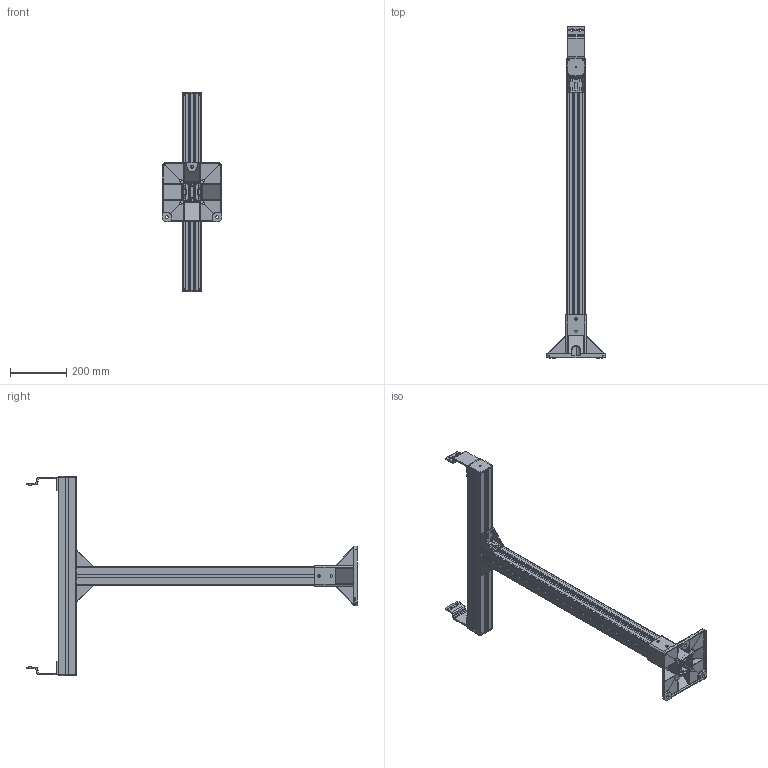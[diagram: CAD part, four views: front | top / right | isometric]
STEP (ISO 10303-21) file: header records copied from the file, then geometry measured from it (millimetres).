
FILE_DESCRIPTION (( 'STEP AP214' ), '1' );
FILE_NAME ('F2-2400-PC64.STEP', '2011-04-13T11:29:45', ( '.' ), ( '' ), 'SwSTEP 2.0', 'SolidWorks 2010', '' );
FILE_SCHEMA (( 'AUTOMOTIVE_DESIGN' ));
Length unit declared in the file: millimetre
Products named in the file (7): FBEC-64-PC64_Default; TC64-PC64_F2-2400-PC64; F2-2400-PC64; FBFA 58B-PC64; EC210-64-PC64; TC64-PC64_Tube vertical; FAHBS-60-PC64_Default
Assembly tree (9 placements, depth 2):
  F2-2400-PC64
    TC64-PC64_F2-2400-PC64
    FBFA 58B-PC64  x2
    FAHBS-60-PC64_Default  x2
    EC210-64-PC64
    FBEC-64-PC64_Default  x2
    TC64-PC64_Tube vertical
Bounding box: 210 x 1178 x 709 mm (x, y, z)
Volume: 1941507.3 mm3; surface area: 1608931.4 mm2
Topology: 9 solids, 9 shells, 1659 faces, 4644 edges, 3050 vertices
Faces by surface type: plane 896, cylinder 624, bspline 123, sphere 8, cone 4, torus 4
Entity records: 42027 total; most frequent: CARTESIAN_POINT 10635, ORIENTED_EDGE 6404, DIRECTION 5967, EDGE_CURVE 3202, VERTEX_POINT 2096, VECTOR 2091, LINE 2091, AXIS2_PLACEMENT_3D 1938
